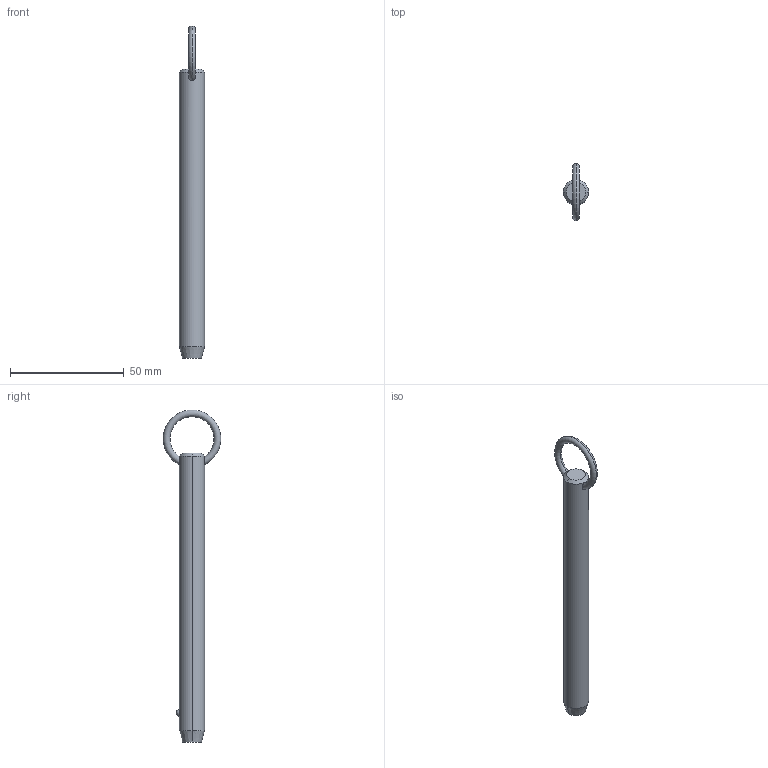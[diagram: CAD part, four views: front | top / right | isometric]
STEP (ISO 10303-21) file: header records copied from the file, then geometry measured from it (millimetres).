
FILE_DESCRIPTION (( 'STEP AP203' ), '1' );
FILE_NAME ('P1250.050-420.step', '2019-07-29T20:36:37', ( '' ), ( '' ), 'SwSTEP 2.0', 'SolidWorks 2017', '' );
FILE_SCHEMA (( 'CONFIG_CONTROL_DESIGN' ));
Length unit declared in the file: millimetre
Products named in the file (1): P1250.050-420
Bounding box: 11.1 x 25.32 x 146.25 mm (x, y, z)
Volume: 12601.4 mm3; surface area: 5091.8 mm2
Topology: 1 solids, 1 shells, 12 faces, 28 edges, 17 vertices
Faces by surface type: cone 4, torus 2, sphere 2, cylinder 2, plane 2
Entity records: 523 total; most frequent: CARTESIAN_POINT 190, DIRECTION 56, ORIENTED_EDGE 48, AXIS2_PLACEMENT_3D 25, EDGE_CURVE 24, VERTEX_POINT 15, EDGE_LOOP 15, FACE_OUTER_BOUND 12
